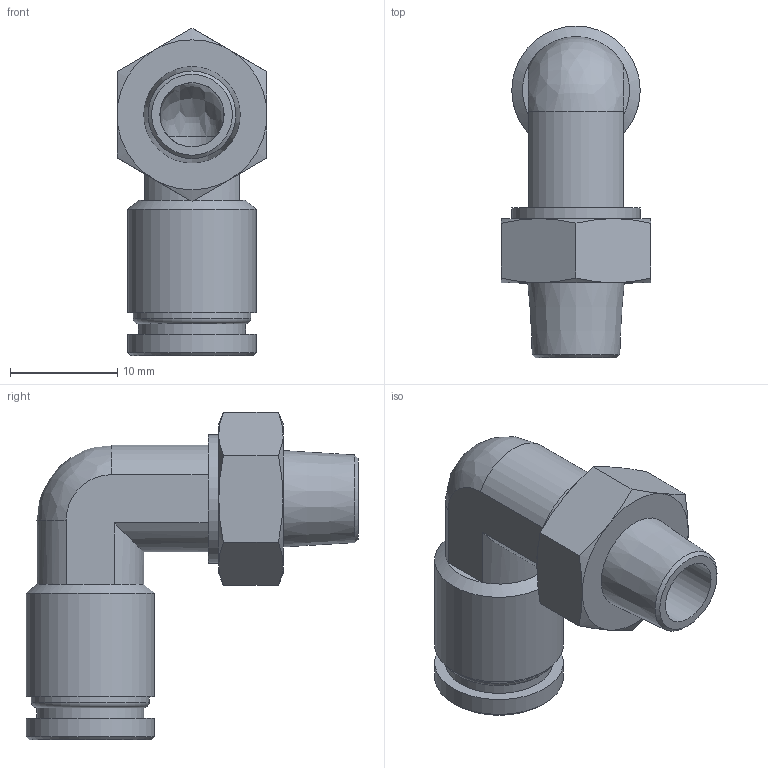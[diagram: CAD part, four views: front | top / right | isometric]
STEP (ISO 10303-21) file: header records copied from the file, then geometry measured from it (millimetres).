
FILE_DESCRIPTION(/* description */ (''),/* implementation_level */ '2;1');
FILE_NAME(/* name */ 'LXH21 0008 B1.stp',/* time_stamp */ '2026-05-01T12:36:13+02:00',/* author */ ('freju'),/* organization */ (''),/* preprocessor_version */ 'ST-DEVELOPER v20.1',/* originating_system */ 'Autodesk Inventor 2026',/* authorisation */ '');
FILE_SCHEMA (('AUTOMOTIVE_DESIGN { 1 0 10303 214 3 1 1 }'));
Length unit declared in the file: millimetre
Products named in the file (1): LXH21 0008 B1
Bounding box: 14 x 31 x 30.58 mm (x, y, z)
Volume: 2784.3 mm3; surface area: 2952.5 mm2
Topology: 1 solids, 1 shells, 49 faces, 108 edges, 65 vertices
Faces by surface type: plane 18, cone 16, cylinder 12, bspline 2, torus 1
Full cylindrical faces by diameter (mm): 6 x2, 8 x1, 10 x1, 11 x1, 12 x3
Entity records: 1385 total; most frequent: CARTESIAN_POINT 303, DIRECTION 230, ORIENTED_EDGE 212, EDGE_CURVE 106, AXIS2_PLACEMENT_3D 100, VERTEX_POINT 65, EDGE_LOOP 57, CIRCLE 50
